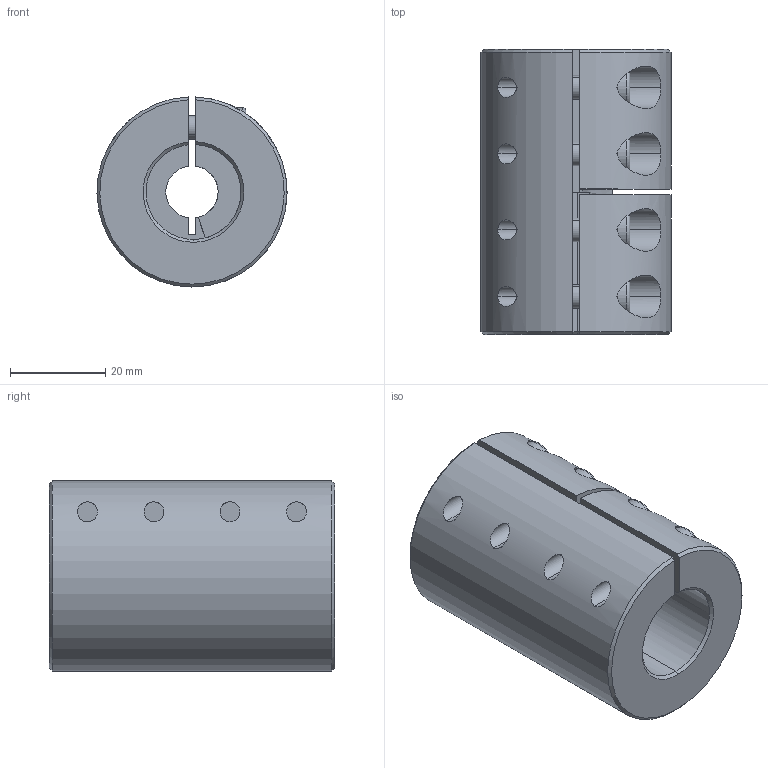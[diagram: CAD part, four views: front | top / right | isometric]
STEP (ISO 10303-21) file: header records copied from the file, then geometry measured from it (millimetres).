
FILE_DESCRIPTION (( 'STEP AP214' ), '1' );
FILE_NAME ('LL-B-D40L60-11-20½¨Ä£.STEP', '2022-07-22T00:57:43', ( '' ), ( '' ), 'SwSTEP 2.0', 'SolidWorks 2022', '' );
FILE_SCHEMA (( 'AUTOMOTIVE_DESIGN' ));
Length unit declared in the file: millimetre
Products named in the file (1): LL-B-D40L60-11-20膘耀
Bounding box: 40 x 60 x 39.99 mm (x, y, z)
Volume: 59831.9 mm3; surface area: 17509.1 mm2
Topology: 1 solids, 1 shells, 181 faces, 459 edges, 288 vertices
Faces by surface type: plane 87, cylinder 71, cone 15, torus 8
Entity records: 5971 total; most frequent: CARTESIAN_POINT 1511, DIRECTION 967, ORIENTED_EDGE 902, EDGE_CURVE 451, AXIS2_PLACEMENT_3D 376, VERTEX_POINT 288, LINE 215, VECTOR 215
